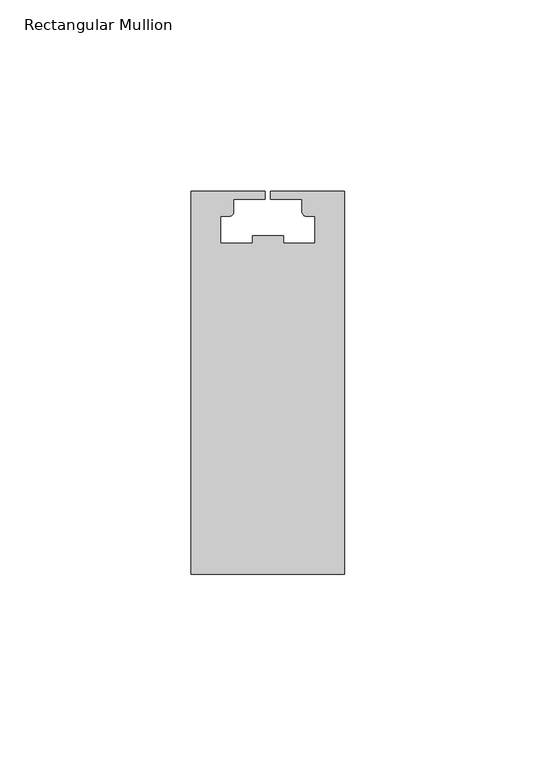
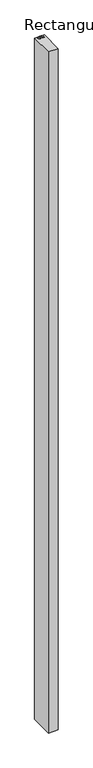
"""IFC4 building model written with IfcOpenShell, lengths in millimetres: member geometry, Rectangular Mullion : SD.100_renson."""

from ifc_helpers import new_model, si_unit, point, frame, frame_2d, origin, place, context, project, spatial, polyline, circle_curve, trimmed, segment, composite_curve, outline, extrude, source, transform, mapped, element, save


def rectangular_mullion_8b77bd57(model_context):
    return source(origin(), model_context, "Body", "SweptSolid", [
        extrude(outline(composite_curve([segment(polyline([(-20.0, -1.0), (-0.7528633, -1.0), (-0.7528633, -3.0), (-8.9220615, -3.0), (-8.9220615, -6.2788187)]), True, "CONTINUOUS"), segment(trimmed(circle_curve(frame_2d((-10.1231703, -6.2788187)), 1.2011087), [point((-8.9220615, -6.2788187))], [point((-10.1231703, -7.4799274))], False, "CARTESIAN"), True, "CONTINUOUS"), segment(polyline([(-10.1231703, -7.4799274), (-12.3724438, -7.4799274), (-12.3724438, -14.5683484), (-4.0479621, -14.5683484), (-4.0479621, -12.5683484), (4.0479621, -12.5683484), (4.0479621, -14.5683484), (12.3724438, -14.5683484), (12.3724438, -7.4799274), (10.1231703, -7.4799274)]), True, "CONTINUOUS"), segment(trimmed(circle_curve(frame_2d((10.1231703, -6.2788187)), 1.2011087), [point((10.1231703, -7.4799274))], [point((8.9220615, -6.2788187))], False, "CARTESIAN"), True, "CONTINUOUS"), segment(polyline([(8.9220615, -6.2788187), (8.9220615, -3.0), (0.7528633, -3.0), (0.7528633, -1.0), (20.0, -1.0), (20.0, -101.0), (-20.0, -101.0), (-20.0, -1.0)]), True, "CONTINUOUS")], self_intersect=False)), frame((0.0, 0.0, -3000.0), z_axis=(0.0, 0.0, 1.0), x_axis=(1.0, 0.0, 0.0)), (0.0, 0.0, 1.0), 3000.0),
    ])


if __name__ == "__main__":
    model = new_model("IFC4")
    model_context = context("Model", 3, world=origin())
    ifc_project = project(units=[si_unit("LENGTHUNIT", "METRE", prefix="MILLI")], contexts=[model_context])
    site = spatial("IfcSite", under=ifc_project)
    building = spatial("IfcBuilding", under=site)
    placement = place(None, origin())
    rectangular_mullion_shape = rectangular_mullion_8b77bd57(model_context)
    element("IfcMember", 1, ObjectType="Rectangular Mullion : SD.100_renson", at=placement, inside=building, context=model_context, shape_type="MappedRepresentation", body=[
        mapped(rectangular_mullion_shape, transform((0.0, 0.0, 0.0), x_axis=(1.0, 0.0, 0.0), y_axis=(0.0, 1.0, 0.0), z_axis=(0.0, 0.0, 1.0))),
    ])
    save(model, "model.ifc")
